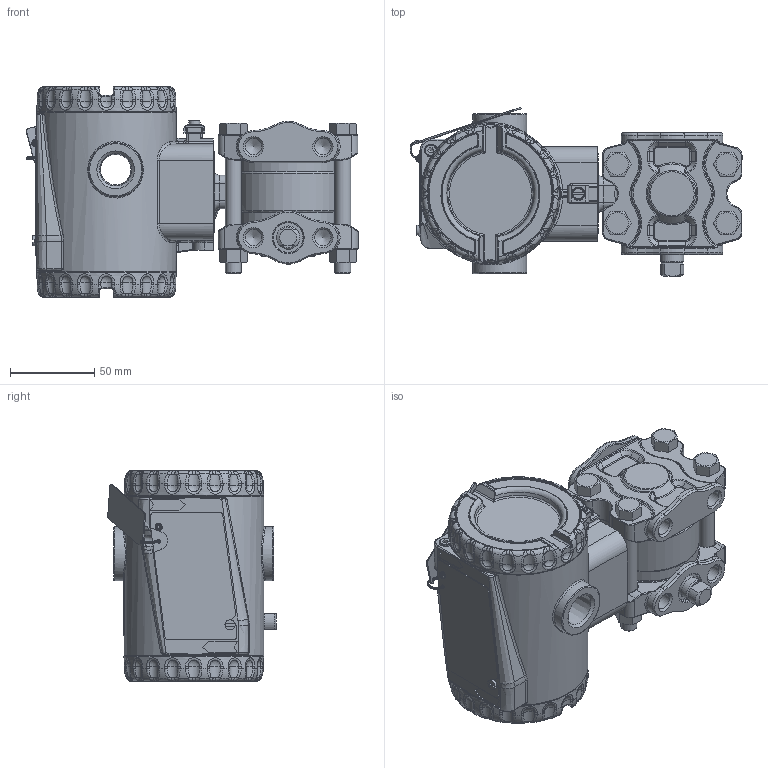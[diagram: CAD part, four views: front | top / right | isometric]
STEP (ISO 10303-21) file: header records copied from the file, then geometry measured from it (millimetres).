
FILE_DESCRIPTION(/* description */ (''),/* implementation_level */ '2;1');
FILE_NAME(/* name */ 'F:\Area\Desenvolvimento_2\Projects\Sensor\projetos\LD400-3d\dimensionais 3D clientes\LD400A0-3 1-4NPT sem purga.stp',/* time_stamp */ '2023-02-01T17:40:18-03:00',/* author */ ('inventor02'),/* organization */ (''),/* preprocessor_version */ 'ST-DEVELOPER v17',/* originating_system */ 'Autodesk Inventor 2019',/* authorisation */ '');
FILE_SCHEMA (('CONFIG_CONTROL_DESIGN'));
Products named in the file (29): LD400A0-3 1-4NPT sem purga; Carcaça 400 com tampas e plaqueta sem letras; 101-D-0845-05 carcaça LD400 sem letras; 101-B-3614-03-tampa 400 sem letras; Tampa visor 400 montada sem letras; 101-B-3612-05 tampa visor 400 sem letras; 101-A-6107; oring 2034; 00034775-0; WHW_250; DIN 915 - M6 x 10; Chapa aterramento externo; 201-A-1771-02 inserto terra recartilhado; AS 1969 - ST4,2; ISO 1207 - M4 x 8; ANSI B18.3.1M - M4x0,7 x 8; Subconjunto plaqueta 400; plaqueta 400 em branco; Parafuso da Plaqueta; Rebite da Plaqueta; 096-A-0169-03; 101-A-0502-01; manometrico standard fx0-3 sem purga; Flange manometrico standard; flange diferencial std sem purga; bujao 1-4NPT; involucro fx0-3 apos a usinagem final; Paraf. 3-8 x 16 UNC; Porca 3-8 x 16 UNC
Assembly tree (35 placements, depth 4):
  LD400A0-3 1-4NPT sem purga
    Carcaça 400 com tampas e plaqueta sem letras
      101-D-0845-05 carcaça LD400 sem letras
      101-B-3614-03-tampa 400 sem letras
      Tampa visor 400 montada sem letras
        101-B-3612-05 tampa visor 400 sem letras
        101-A-6107
        oring 2034
        00034775-0
        WHW_250
      DIN 915 - M6 x 10
      Chapa aterramento externo
      201-A-1771-02 inserto terra recartilhado
      AS 1969 - ST4,2
      ISO 1207 - M4 x 8
      ANSI B18.3.1M - M4x0,7 x 8  x2
      Subconjunto plaqueta 400
        plaqueta 400 em branco
        Parafuso da Plaqueta
        Rebite da Plaqueta
        096-A-0169-03
        101-A-0502-01
    manometrico standard fx0-3 sem purga
      Flange manometrico standard
      flange diferencial std sem purga
      bujao 1-4NPT
      involucro fx0-3 apos a usinagem final
      Paraf. 3-8 x 16 UNC  x4
      Porca 3-8 x 16 UNC  x4
Bounding box: 197.25 x 100.09 x 125 mm (x, y, z)
Volume: 595468.3 mm3; surface area: 229746.4 mm2
Topology: 31 solids, 31 shells, 2637 faces, 6393 edges, 3803 vertices
Faces by surface type: bspline 667, plane 653, cylinder 609, torus 451, cone 195, sphere 62
Full cylindrical faces by diameter (mm): 2 x2, 2.1 x1, 2.2 x1, 2.459 x3, 2.7 x1, 3 x2, 3.242 x3, 3.571 x1, 4 x4, 4.3 x2, 4.4 x1, 4.917 x1, 5.5 x2, 6 x2, 6.1 x2, 6.2 x1, 7 x2, 7.6 x2, 7.798 x4, 9.525 x4, 9.728 x8, 10.5 x8, 10.719 x2, 13.8 x1, 14 x1, 18.3 x2, 18.5 x2, 32 x2, 32.1 x1, 34.6 x1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
Entity records: 96838 total; most frequent: CARTESIAN_POINT 38544, ORIENTED_EDGE 12274, DIRECTION 11760, EDGE_CURVE 6137, AXIS2_PLACEMENT_3D 5014, VERTEX_POINT 3677, CIRCLE 2888, EDGE_LOOP 2640
